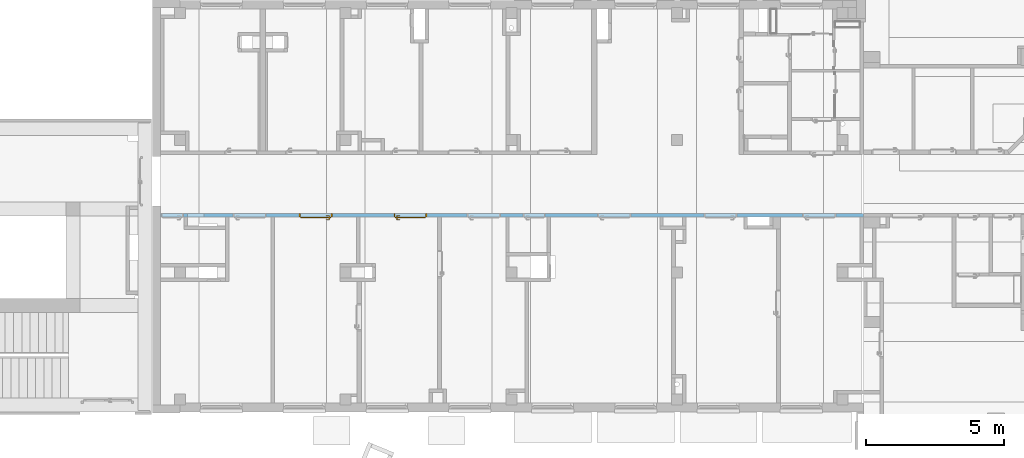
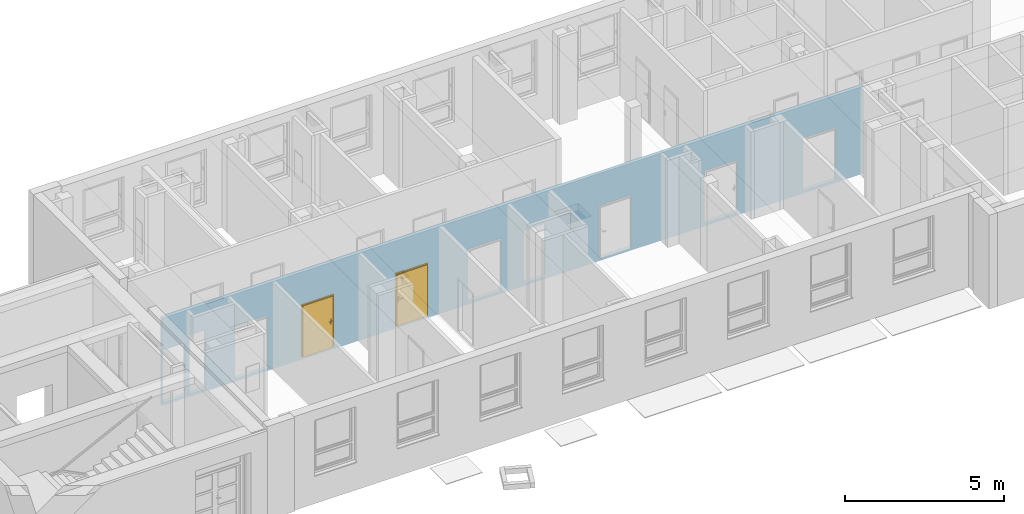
# One storey, part 19 of 140: 2 doors, 10 openings, plus 1 element that does not belong to this part.
"""IFC4 building model written with IfcOpenShell, lengths in metres."""

from ifc_helpers import new_model, entity, si_unit, converted_unit, derived_unit, frame, frame_2d, origin, origin_with_axes, place, context, subcontext, project, spatial, polyline, rectangle, outline, extrude, closed_shell, open_shell, surface_model, source, transform, mapped, material, layer, layer_set, layer_usage, type_object, element, fill, save


model = new_model("IFC4")

# Units and contexts
model_context = context("Model", 3, precision=1e-05, world=origin())
body_context = subcontext(model_context, "Body", "Model", "MODEL_VIEW")
ifc_project = project(units=[si_unit("LENGTHUNIT", "METRE"), si_unit("AREAUNIT", "SQUARE_METRE"), si_unit("VOLUMEUNIT", "CUBIC_METRE"), si_unit("MASSUNIT", "GRAM", prefix="KILO"), converted_unit("PLANEANGLEUNIT", "DEGREE", entity("IfcPlaneAngleMeasure", 0.0174532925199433), si_unit("PLANEANGLEUNIT", "RADIAN"), dimensions=[0, 0, 0, 0, 0, 0, 0]), derived_unit("THERMALTRANSMITTANCEUNIT", [(si_unit("POWERUNIT", "WATT"), 1), (si_unit("THERMODYNAMICTEMPERATUREUNIT", "KELVIN"), -1), (si_unit("LENGTHUNIT", "METRE"), -2)]), derived_unit("VOLUMETRICFLOWRATEUNIT", [(si_unit("LENGTHUNIT", "METRE"), 3), (converted_unit("TIMEUNIT", "hour", entity("IfcTimeMeasure", 3600.0), si_unit("TIMEUNIT", "SECOND"), dimensions=[0, 0, 1, 0, 0, 0, 0]), -1), (si_unit("LENGTHUNIT", "METRE"), -1)])], contexts=[model_context])

# Site, building, storey
site_placement = place(None, origin())
site = spatial("IfcSite", under=ifc_project, at=site_placement, Name="3. ASŘ", CompositionType="ELEMENT")
building_placement = place(site_placement, origin())
building = spatial("IfcBuilding", under=site, at=building_placement, Name="Pavilon C", CompositionType="ELEMENT")
storey_placement = place(building_placement, origin())
storey = spatial("IfcBuildingStorey", under=building, at=storey_placement, Name="Půdorys 1.NP", CompositionType="ELEMENT", Elevation=0.0)

# Wall, openings, doors
ifc_material = material(Name="ZDIVO Z CDm")
ifc_layer = layer(ifc_material, 0.125)
ifc_layer_set = layer_set([ifc_layer])
ifc_layer_usage = layer_usage(ifc_layer_set, "AXIS2", "POSITIVE", 0.0)
wall_placement = place(storey_placement, frame((24.75, 7.525, -0.1), z_axis=(0.0, 0.0, 1.0), x_axis=(-1.0, 0.0, 0.0)))
wall = element("IfcWall", 1, at=wall_placement, inside=storey, material=ifc_layer_usage, Name="ZDIVO Z CDm", context=body_context, shape_type="SweptSolid", body=[
    extrude(rectangle(XDim=25.45, YDim=0.125, at=frame_2d((12.725, 0.0625), x_axis=(1.0, 0.0))), origin_with_axes(), (0.0, 0.0, 1.0), 3.35),
])
opening_1_placement = place(wall_placement, frame((1.00000000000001, 0.0, 0.1), z_axis=(0.0, 1.0, 0.0), x_axis=(0.0, 0.0, 1.0)))
element("IfcOpeningElement", 2, at=opening_1_placement, cuts=wall, Name="Dveřní otvor", ObjectType="Opening", context=body_context, shape_type="SweptSolid", body=[
    extrude(outline(polyline([(0.0, 1.2), (2.02, 1.2), (2.02, 0.0), (0.0, 0.0), (0.0, 1.2)])), origin_with_axes(), (0.0, 0.0, 1.0), 0.125),
])
opening_2_placement = place(wall_placement, frame((5.77499999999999, 0.125, 0.1), z_axis=(0.0, -1.0, 0.0), x_axis=(0.0, 0.0, 1.0)))
element("IfcOpeningElement", 3, at=opening_2_placement, cuts=wall, Name="Dveřní otvor", ObjectType="Opening", context=body_context, shape_type="SweptSolid", body=[
    extrude(outline(polyline([(0.0, 1.2), (2.02, 1.2), (2.02, 0.0), (0.0, 0.0), (0.0, 1.2)])), origin_with_axes(), (0.0, 0.0, 1.0), 0.125),
])
opening_3_placement = place(wall_placement, frame((17.005, 0.125, 0.1), z_axis=(0.0, -1.0, 0.0), x_axis=(0.0, 0.0, 1.0)))
opening_3 = element("IfcOpeningElement", 4, at=opening_3_placement, cuts=wall, Name="Dveřní otvor", ObjectType="Opening", context=body_context, shape_type="SweptSolid", body=[
    extrude(outline(polyline([(0.0, 1.2), (2.02, 1.2), (2.02, 0.0), (0.0, 0.0), (0.0, 1.2)])), origin_with_axes(), (0.0, 0.0, 1.0), 0.125),
])
opening_4_placement = place(wall_placement, frame((20.43, 0.125, 0.1), z_axis=(0.0, -1.0, 0.0), x_axis=(0.0, 0.0, 1.0)))
opening_4 = element("IfcOpeningElement", 5, at=opening_4_placement, cuts=wall, Name="Dveřní otvor", ObjectType="Opening", context=body_context, shape_type="SweptSolid", body=[
    extrude(outline(polyline([(0.0, 1.2), (2.02, 1.2), (2.02, 0.0), (0.0, 0.0), (0.0, 1.2)])), origin_with_axes(), (0.0, 0.0, 1.0), 0.125),
])
opening_5_placement = place(wall_placement, frame((23.88, 0.0, 0.1), z_axis=(0.0, 1.0, 0.0), x_axis=(0.0, 0.0, 1.0)))
element("IfcOpeningElement", 6, at=opening_5_placement, cuts=wall, Name="Dveřní otvor", ObjectType="Opening", context=body_context, shape_type="SweptSolid", body=[
    extrude(outline(polyline([(0.0, 0.6), (2.25, 0.6), (2.25, 0.0), (0.0, 0.0), (0.0, 0.6)])), origin_with_axes(), (0.0, 0.0, 1.0), 0.125),
])
opening_6_placement = place(wall_placement, frame((24.625, 0.0, 0.1), z_axis=(0.0, 1.0, 0.0), x_axis=(0.0, 0.0, 1.0)))
element("IfcOpeningElement", 7, at=opening_6_placement, cuts=wall, Name="Dveřní otvor", ObjectType="Opening", context=body_context, shape_type="SweptSolid", body=[
    extrude(outline(polyline([(0.0, 0.8), (2.02, 0.8), (2.02, 0.0), (0.0, 0.0), (0.0, 0.8)])), origin_with_axes(), (0.0, 0.0, 1.0), 0.125),
])
opening_7_placement = place(wall_placement, frame((21.625, 0.0, 0.1), z_axis=(0.0, 1.0, 0.0), x_axis=(0.0, 0.0, 1.0)))
element("IfcOpeningElement", 8, at=opening_7_placement, cuts=wall, Name="Dveřní otvor", ObjectType="Opening", context=body_context, shape_type="SweptSolid", body=[
    extrude(outline(polyline([(0.0, 1.2), (2.02, 1.2), (2.02, 0.0), (0.0, 0.0), (0.0, 1.2)])), origin_with_axes(), (0.0, 0.0, 1.0), 0.125),
])
opening_8_placement = place(wall_placement, frame((13.15, 0.0, 0.1), z_axis=(0.0, 1.0, 0.0), x_axis=(0.0, 0.0, 1.0)))
element("IfcOpeningElement", 9, at=opening_8_placement, cuts=wall, Name="Dveřní otvor", ObjectType="Opening", context=body_context, shape_type="SweptSolid", body=[
    extrude(outline(polyline([(0.0, 1.2), (2.02, 1.2), (2.02, 0.0), (0.0, 0.0), (0.0, 1.2)])), origin_with_axes(), (0.0, 0.0, 1.0), 0.125),
])
opening_9_placement = place(wall_placement, frame((11.525, 0.0, 0.1), z_axis=(0.0, 1.0, 0.0), x_axis=(0.0, 0.0, 1.0)))
element("IfcOpeningElement", 10, at=opening_9_placement, cuts=wall, Name="Dveřní otvor", ObjectType="Opening", context=body_context, shape_type="SweptSolid", body=[
    extrude(outline(polyline([(0.0, 0.8), (2.02, 0.8), (2.02, 0.0), (0.0, 0.0), (0.0, 0.8)])), origin_with_axes(), (0.0, 0.0, 1.0), 0.125),
])
opening_10_placement = place(wall_placement, frame((8.425, 0.0, 0.1), z_axis=(0.0, 1.0, 0.0), x_axis=(0.0, 0.0, 1.0)))
element("IfcOpeningElement", 11, at=opening_10_placement, cuts=wall, Name="Dveřní otvor", ObjectType="Opening", context=body_context, shape_type="SweptSolid", body=[
    extrude(outline(polyline([(0.0, 1.2), (2.02, 1.2), (2.02, 0.0), (0.0, 0.0), (0.0, 1.2)])), origin_with_axes(), (0.0, 0.0, 1.0), 0.125),
])
door_type_1 = type_object("IfcDoorType", Name="D101", OperationType="NOTDEFINED", ParameterTakesPrecedence=False, PredefinedType="DOOR")
shared_shape_1 = source(origin_with_axes(), body_context, "Body", "SurfaceModel", [
    surface_model("IfcShellBasedSurfaceModel", [(0.0, 0.125, 2.02), (0.0, 0.125, -7.65404249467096e-18), (0.05, 0.125, -7.65404249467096e-18), (0.05, 0.125, 2.02), (0.0, 0.0, 7.65404249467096e-18), (0.0, 2.41584530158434e-16, 2.02), (0.05, 2.41584530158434e-16, 2.02), (0.05, 0.0, 7.65404249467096e-18)], [closed_shell([[[0, 1, 2, 3]], [[4, 5, 6, 7]], [[1, 0, 5, 4]], [[2, 1, 4, 7]], [[3, 2, 7, 6]], [[0, 3, 6, 5]]], orient=[[False], [False], [False], [False], [False], [False]])]),
    surface_model("IfcShellBasedSurfaceModel", [(1.15, 0.125, 2.02), (1.15, 0.125, -7.65404249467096e-18), (1.2, 0.125, -7.65404249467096e-18), (1.2, 0.125, 2.02), (1.15, 0.0, 7.65404249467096e-18), (1.15, 2.41584530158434e-16, 2.02), (1.2, 2.41584530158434e-16, 2.02), (1.2, 0.0, 7.65404249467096e-18)], [closed_shell([[[0, 1, 2, 3]], [[4, 5, 6, 7]], [[1, 0, 5, 4]], [[2, 1, 4, 7]], [[3, 2, 7, 6]], [[0, 3, 6, 5]]], orient=[[False], [False], [False], [False], [False], [False]])]),
    surface_model("IfcShellBasedSurfaceModel", [(0.05, 0.125, 2.02), (0.05, 0.125, 1.97), (1.15, 0.125, 1.97), (1.15, 0.125, 2.02), (0.05, 2.41584530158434e-16, 1.97), (0.05, 2.41584530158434e-16, 2.02), (1.15, 2.41584530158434e-16, 2.02), (1.15, 2.41584530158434e-16, 1.97)], [closed_shell([[[0, 1, 2, 3]], [[4, 5, 6, 7]], [[1, 0, 5, 4]], [[2, 1, 4, 7]], [[3, 2, 7, 6]], [[0, 3, 6, 5]]], orient=[[False], [False], [False], [False], [False], [False]])]),
    surface_model("IfcShellBasedSurfaceModel", [(0.05, 0.165, 1.97), (0.05, 0.165, -1.25526296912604e-17), (1.15, 0.165, -1.25526296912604e-17), (1.15, 0.165, 1.97), (0.05, 0.125, -7.65404249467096e-18), (0.05, 0.125, 1.97), (1.15, 0.125, 1.97), (1.15, 0.125, -7.65404249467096e-18)], [closed_shell([[[0, 1, 2, 3]], [[4, 5, 6, 7]], [[1, 0, 5, 4]], [[2, 1, 4, 7]], [[3, 2, 7, 6]], [[0, 3, 6, 5]]], orient=[[False], [False], [False], [False], [False], [False]])]),
    surface_model("IfcShellBasedSurfaceModel", [(1.06, 0.125, 1.125), (1.06, 0.125, 0.91), (1.11, 0.125, 0.91), (1.11, 0.125, 1.125), (1.06, 0.115, 0.91), (1.06, 0.115, 1.125), (1.11, 0.115, 1.125), (1.11, 0.115, 0.91)], [closed_shell([[[0, 1, 2, 3]], [[4, 5, 6, 7]], [[1, 0, 5, 4]], [[2, 1, 4, 7]], [[3, 2, 7, 6]], [[0, 3, 6, 5]]], orient=[[False], [False], [False], [False], [False], [False]])]),
    surface_model("IfcShellBasedSurfaceModel", [(1.085, 0.115, 1.06), (1.08, 0.115, 1.05866025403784), (1.07633974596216, 0.115, 1.055), (1.075, 0.115, 1.05), (1.07633974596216, 0.115, 1.045), (1.08, 0.115, 1.04133974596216), (1.085, 0.115, 1.04), (1.09, 0.115, 1.04133974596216), (1.09366025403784, 0.115, 1.045), (1.095, 0.115, 1.05), (1.09366025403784, 0.115, 1.055), (1.09, 0.115, 1.05866025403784), (1.09, 0.0700000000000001, 1.05866025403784), (1.085, 0.0750000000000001, 1.06), (1.09366025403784, 0.0663397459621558, 1.055), (1.095, 0.0650000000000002, 1.05), (1.09366025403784, 0.0663397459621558, 1.045), (1.09, 0.0700000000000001, 1.04133974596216), (1.085, 0.0750000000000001, 1.04), (1.08, 0.0800000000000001, 1.04133974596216), (1.07633974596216, 0.0836602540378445, 1.045), (1.075, 0.0850000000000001, 1.05), (1.07633974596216, 0.0836602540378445, 1.055), (1.08, 0.0800000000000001, 1.05866025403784), (0.97, 0.0700000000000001, 1.05866025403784), (0.97, 0.0750000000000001, 1.06), (0.97, 0.0663397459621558, 1.055), (0.97, 0.0650000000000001, 1.05), (0.97, 0.0663397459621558, 1.045), (0.97, 0.0700000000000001, 1.04133974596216), (0.97, 0.0750000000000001, 1.04), (0.97, 0.0800000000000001, 1.04133974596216), (0.97, 0.0836602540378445, 1.045), (0.97, 0.0850000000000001, 1.05), (0.97, 0.0836602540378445, 1.055), (0.97, 0.0800000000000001, 1.05866025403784)], [open_shell([[[0, 1, 2, 3, 4, 5, 6, 7, 8, 9, 10, 11]], [[0, 11, 12, 13]], [[11, 10, 14, 12]], [[10, 9, 15, 14]], [[9, 8, 16, 15]], [[8, 7, 17, 16]], [[7, 6, 18, 17]], [[6, 5, 19, 18]], [[5, 4, 20, 19]], [[4, 3, 21, 20]], [[3, 2, 22, 21]], [[2, 1, 23, 22]], [[1, 0, 13, 23]], [[13, 12, 24, 25]], [[12, 14, 26, 24]], [[14, 15, 27, 26]], [[15, 16, 28, 27]], [[16, 17, 29, 28]], [[17, 18, 30, 29]], [[18, 19, 31, 30]], [[19, 20, 32, 31]], [[20, 21, 33, 32]], [[21, 22, 34, 33]], [[22, 23, 35, 34]], [[23, 13, 25, 35]]], orient=[[False], [False], [False], [False], [False], [False], [False], [False], [False], [False], [False], [False], [False], [False], [False], [False], [False], [False], [False], [False], [False], [False], [False], [False], [False]])]),
    surface_model("IfcShellBasedSurfaceModel", [(1.06, 0.165, 1.125), (1.11, 0.165, 1.125), (1.11, 0.165, 0.91), (1.06, 0.165, 0.91), (1.06, 0.175, 0.91), (1.11, 0.175, 0.91), (1.11, 0.175, 1.125), (1.06, 0.175, 1.125)], [closed_shell([[[0, 1, 2, 3]], [[4, 5, 6, 7]], [[3, 4, 7, 0]], [[2, 5, 4, 3]], [[1, 6, 5, 2]], [[0, 7, 6, 1]]], orient=[[False], [False], [False], [False], [False], [False]])]),
    surface_model("IfcShellBasedSurfaceModel", [(1.085, 0.175, 1.06), (1.09, 0.175, 1.05866025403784), (1.09366025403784, 0.175, 1.055), (1.095, 0.175, 1.05), (1.09366025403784, 0.175, 1.045), (1.09, 0.175, 1.04133974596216), (1.085, 0.175, 1.04), (1.08, 0.175, 1.04133974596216), (1.07633974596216, 0.175, 1.045), (1.075, 0.175, 1.05), (1.07633974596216, 0.175, 1.055), (1.08, 0.175, 1.05866025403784), (1.085, 0.215, 1.06), (1.09, 0.22, 1.05866025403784), (1.09366025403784, 0.223660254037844, 1.055), (1.095, 0.225, 1.05), (1.09366025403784, 0.223660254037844, 1.045), (1.09, 0.22, 1.04133974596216), (1.085, 0.215, 1.04), (1.08, 0.21, 1.04133974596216), (1.07633974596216, 0.206339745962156, 1.045), (1.075, 0.205, 1.05), (1.07633974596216, 0.206339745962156, 1.055), (1.08, 0.21, 1.05866025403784), (0.97, 0.215, 1.06), (0.97, 0.22, 1.05866025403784), (0.97, 0.223660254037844, 1.055), (0.97, 0.225, 1.05), (0.97, 0.223660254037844, 1.045), (0.97, 0.22, 1.04133974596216), (0.97, 0.215, 1.04), (0.97, 0.21, 1.04133974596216), (0.97, 0.206339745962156, 1.045), (0.97, 0.205, 1.05), (0.97, 0.206339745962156, 1.055), (0.97, 0.21, 1.05866025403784)], [open_shell([[[0, 1, 2, 3, 4, 5, 6, 7, 8, 9, 10, 11]], [[0, 12, 13, 1]], [[1, 13, 14, 2]], [[2, 14, 15, 3]], [[3, 15, 16, 4]], [[4, 16, 17, 5]], [[5, 17, 18, 6]], [[6, 18, 19, 7]], [[7, 19, 20, 8]], [[8, 20, 21, 9]], [[9, 21, 22, 10]], [[10, 22, 23, 11]], [[11, 23, 12, 0]], [[12, 24, 25, 13]], [[13, 25, 26, 14]], [[14, 26, 27, 15]], [[15, 27, 28, 16]], [[16, 28, 29, 17]], [[17, 29, 30, 18]], [[18, 30, 31, 19]], [[19, 31, 32, 20]], [[20, 32, 33, 21]], [[21, 33, 34, 22]], [[22, 34, 35, 23]], [[23, 35, 24, 12]]], orient=[[False], [False], [False], [False], [False], [False], [False], [False], [False], [False], [False], [False], [False], [False], [False], [False], [False], [False], [False], [False], [False], [False], [False], [False], [False]])]),
])
door_1_placement = place(opening_4_placement, frame((0.0, 0.0, 0.125), z_axis=(1.0, 0.0, 0.0), x_axis=(0.0, 1.0, -1.22464679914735e-16)))
door_1 = element("IfcDoor", 12, at=door_1_placement, inside=storey, type_object=door_type_1, Name="D101", OverallHeight=2.02, OverallWidth=1.2, context=body_context, shape_type="MappedRepresentation", body=[
    mapped(shared_shape_1, transform((0.0, 0.0, 0.0), x_axis=(1.0, 0.0, 0.0), y_axis=(0.0, -1.0, 0.0), z_axis=(0.0, 0.0, 1.0), scale=1.0)),
])
fill(opening_4, door_1)
door_type_2 = type_object("IfcDoorType", Name="D101", OperationType="NOTDEFINED", ParameterTakesPrecedence=False, PredefinedType="DOOR")
shared_shape_2 = source(origin_with_axes(), body_context, "Body", "SurfaceModel", [
    surface_model("IfcShellBasedSurfaceModel", [(0.0, 0.125, 2.02), (0.0, 0.125, -7.65404249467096e-18), (0.05, 0.125, -7.65404249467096e-18), (0.05, 0.125, 2.02), (0.0, 0.0, 7.65404249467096e-18), (0.0, 2.41584530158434e-16, 2.02), (0.05, 2.41584530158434e-16, 2.02), (0.05, 0.0, 7.65404249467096e-18)], [closed_shell([[[0, 1, 2, 3]], [[4, 5, 6, 7]], [[1, 0, 5, 4]], [[2, 1, 4, 7]], [[3, 2, 7, 6]], [[0, 3, 6, 5]]], orient=[[False], [False], [False], [False], [False], [False]])]),
    surface_model("IfcShellBasedSurfaceModel", [(1.15, 0.125, 2.02), (1.15, 0.125, -7.65404249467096e-18), (1.2, 0.125, -7.65404249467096e-18), (1.2, 0.125, 2.02), (1.15, 0.0, 7.65404249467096e-18), (1.15, 2.41584530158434e-16, 2.02), (1.2, 2.41584530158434e-16, 2.02), (1.2, 0.0, 7.65404249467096e-18)], [closed_shell([[[0, 1, 2, 3]], [[4, 5, 6, 7]], [[1, 0, 5, 4]], [[2, 1, 4, 7]], [[3, 2, 7, 6]], [[0, 3, 6, 5]]], orient=[[False], [False], [False], [False], [False], [False]])]),
    surface_model("IfcShellBasedSurfaceModel", [(0.05, 0.125, 2.02), (0.05, 0.125, 1.97), (1.15, 0.125, 1.97), (1.15, 0.125, 2.02), (0.05, 2.41584530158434e-16, 1.97), (0.05, 2.41584530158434e-16, 2.02), (1.15, 2.41584530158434e-16, 2.02), (1.15, 2.41584530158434e-16, 1.97)], [closed_shell([[[0, 1, 2, 3]], [[4, 5, 6, 7]], [[1, 0, 5, 4]], [[2, 1, 4, 7]], [[3, 2, 7, 6]], [[0, 3, 6, 5]]], orient=[[False], [False], [False], [False], [False], [False]])]),
    surface_model("IfcShellBasedSurfaceModel", [(0.05, 0.165, 1.97), (0.05, 0.165, -1.25526296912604e-17), (1.15, 0.165, -1.25526296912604e-17), (1.15, 0.165, 1.97), (0.05, 0.125, -7.65404249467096e-18), (0.05, 0.125, 1.97), (1.15, 0.125, 1.97), (1.15, 0.125, -7.65404249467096e-18)], [closed_shell([[[0, 1, 2, 3]], [[4, 5, 6, 7]], [[1, 0, 5, 4]], [[2, 1, 4, 7]], [[3, 2, 7, 6]], [[0, 3, 6, 5]]], orient=[[False], [False], [False], [False], [False], [False]])]),
    surface_model("IfcShellBasedSurfaceModel", [(1.06, 0.125, 1.125), (1.06, 0.125, 0.91), (1.11, 0.125, 0.91), (1.11, 0.125, 1.125), (1.06, 0.115, 0.91), (1.06, 0.115, 1.125), (1.11, 0.115, 1.125), (1.11, 0.115, 0.91)], [closed_shell([[[0, 1, 2, 3]], [[4, 5, 6, 7]], [[1, 0, 5, 4]], [[2, 1, 4, 7]], [[3, 2, 7, 6]], [[0, 3, 6, 5]]], orient=[[False], [False], [False], [False], [False], [False]])]),
    surface_model("IfcShellBasedSurfaceModel", [(1.085, 0.115, 1.06), (1.08, 0.115, 1.05866025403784), (1.07633974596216, 0.115, 1.055), (1.075, 0.115, 1.05), (1.07633974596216, 0.115, 1.045), (1.08, 0.115, 1.04133974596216), (1.085, 0.115, 1.04), (1.09, 0.115, 1.04133974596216), (1.09366025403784, 0.115, 1.045), (1.095, 0.115, 1.05), (1.09366025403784, 0.115, 1.055), (1.09, 0.115, 1.05866025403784), (1.09, 0.0700000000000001, 1.05866025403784), (1.085, 0.0750000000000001, 1.06), (1.09366025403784, 0.0663397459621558, 1.055), (1.095, 0.0650000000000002, 1.05), (1.09366025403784, 0.0663397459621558, 1.045), (1.09, 0.0700000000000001, 1.04133974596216), (1.085, 0.0750000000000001, 1.04), (1.08, 0.0800000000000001, 1.04133974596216), (1.07633974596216, 0.0836602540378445, 1.045), (1.075, 0.0850000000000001, 1.05), (1.07633974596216, 0.0836602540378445, 1.055), (1.08, 0.0800000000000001, 1.05866025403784), (0.97, 0.0700000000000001, 1.05866025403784), (0.97, 0.0750000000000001, 1.06), (0.97, 0.0663397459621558, 1.055), (0.97, 0.0650000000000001, 1.05), (0.97, 0.0663397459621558, 1.045), (0.97, 0.0700000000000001, 1.04133974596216), (0.97, 0.0750000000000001, 1.04), (0.97, 0.0800000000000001, 1.04133974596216), (0.97, 0.0836602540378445, 1.045), (0.97, 0.0850000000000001, 1.05), (0.97, 0.0836602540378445, 1.055), (0.97, 0.0800000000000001, 1.05866025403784)], [open_shell([[[0, 1, 2, 3, 4, 5, 6, 7, 8, 9, 10, 11]], [[0, 11, 12, 13]], [[11, 10, 14, 12]], [[10, 9, 15, 14]], [[9, 8, 16, 15]], [[8, 7, 17, 16]], [[7, 6, 18, 17]], [[6, 5, 19, 18]], [[5, 4, 20, 19]], [[4, 3, 21, 20]], [[3, 2, 22, 21]], [[2, 1, 23, 22]], [[1, 0, 13, 23]], [[13, 12, 24, 25]], [[12, 14, 26, 24]], [[14, 15, 27, 26]], [[15, 16, 28, 27]], [[16, 17, 29, 28]], [[17, 18, 30, 29]], [[18, 19, 31, 30]], [[19, 20, 32, 31]], [[20, 21, 33, 32]], [[21, 22, 34, 33]], [[22, 23, 35, 34]], [[23, 13, 25, 35]]], orient=[[False], [False], [False], [False], [False], [False], [False], [False], [False], [False], [False], [False], [False], [False], [False], [False], [False], [False], [False], [False], [False], [False], [False], [False], [False]])]),
    surface_model("IfcShellBasedSurfaceModel", [(1.06, 0.165, 1.125), (1.11, 0.165, 1.125), (1.11, 0.165, 0.91), (1.06, 0.165, 0.91), (1.06, 0.175, 0.91), (1.11, 0.175, 0.91), (1.11, 0.175, 1.125), (1.06, 0.175, 1.125)], [closed_shell([[[0, 1, 2, 3]], [[4, 5, 6, 7]], [[3, 4, 7, 0]], [[2, 5, 4, 3]], [[1, 6, 5, 2]], [[0, 7, 6, 1]]], orient=[[False], [False], [False], [False], [False], [False]])]),
    surface_model("IfcShellBasedSurfaceModel", [(1.085, 0.175, 1.06), (1.09, 0.175, 1.05866025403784), (1.09366025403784, 0.175, 1.055), (1.095, 0.175, 1.05), (1.09366025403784, 0.175, 1.045), (1.09, 0.175, 1.04133974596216), (1.085, 0.175, 1.04), (1.08, 0.175, 1.04133974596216), (1.07633974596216, 0.175, 1.045), (1.075, 0.175, 1.05), (1.07633974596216, 0.175, 1.055), (1.08, 0.175, 1.05866025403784), (1.085, 0.215, 1.06), (1.09, 0.22, 1.05866025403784), (1.09366025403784, 0.223660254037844, 1.055), (1.095, 0.225, 1.05), (1.09366025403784, 0.223660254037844, 1.045), (1.09, 0.22, 1.04133974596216), (1.085, 0.215, 1.04), (1.08, 0.21, 1.04133974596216), (1.07633974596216, 0.206339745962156, 1.045), (1.075, 0.205, 1.05), (1.07633974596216, 0.206339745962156, 1.055), (1.08, 0.21, 1.05866025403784), (0.97, 0.215, 1.06), (0.97, 0.22, 1.05866025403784), (0.97, 0.223660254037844, 1.055), (0.97, 0.225, 1.05), (0.97, 0.223660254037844, 1.045), (0.97, 0.22, 1.04133974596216), (0.97, 0.215, 1.04), (0.97, 0.21, 1.04133974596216), (0.97, 0.206339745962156, 1.045), (0.97, 0.205, 1.05), (0.97, 0.206339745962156, 1.055), (0.97, 0.21, 1.05866025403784)], [open_shell([[[0, 1, 2, 3, 4, 5, 6, 7, 8, 9, 10, 11]], [[0, 12, 13, 1]], [[1, 13, 14, 2]], [[2, 14, 15, 3]], [[3, 15, 16, 4]], [[4, 16, 17, 5]], [[5, 17, 18, 6]], [[6, 18, 19, 7]], [[7, 19, 20, 8]], [[8, 20, 21, 9]], [[9, 21, 22, 10]], [[10, 22, 23, 11]], [[11, 23, 12, 0]], [[12, 24, 25, 13]], [[13, 25, 26, 14]], [[14, 26, 27, 15]], [[15, 27, 28, 16]], [[16, 28, 29, 17]], [[17, 29, 30, 18]], [[18, 30, 31, 19]], [[19, 31, 32, 20]], [[20, 32, 33, 21]], [[21, 33, 34, 22]], [[22, 34, 35, 23]], [[23, 35, 24, 12]]], orient=[[False], [False], [False], [False], [False], [False], [False], [False], [False], [False], [False], [False], [False], [False], [False], [False], [False], [False], [False], [False], [False], [False], [False], [False], [False]])]),
])
door_2_placement = place(opening_3_placement, frame((0.0, 1.2, 0.125), z_axis=(1.0, 0.0, 0.0), x_axis=(0.0, -1.0, 1.22464679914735e-16)))
door_2 = element("IfcDoor", 13, at=door_2_placement, inside=storey, type_object=door_type_2, Name="D101", OverallHeight=2.02, OverallWidth=1.2, context=body_context, shape_type="MappedRepresentation", body=[
    mapped(shared_shape_2, transform((0.0, 0.0, 0.0), x_axis=(1.0, 0.0, 0.0), y_axis=(0.0, 1.0, 0.0), z_axis=(0.0, 0.0, 1.0), scale=1.0)),
])
fill(opening_3, door_2)

save(model, "model.ifc")
